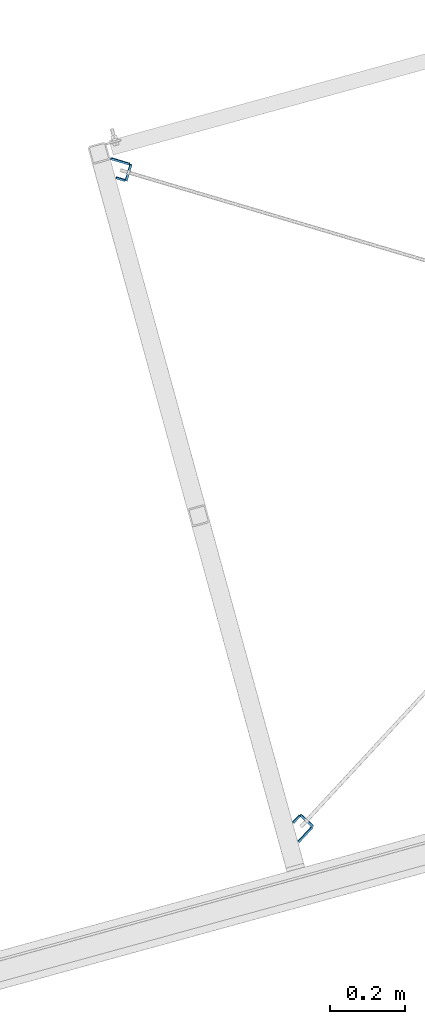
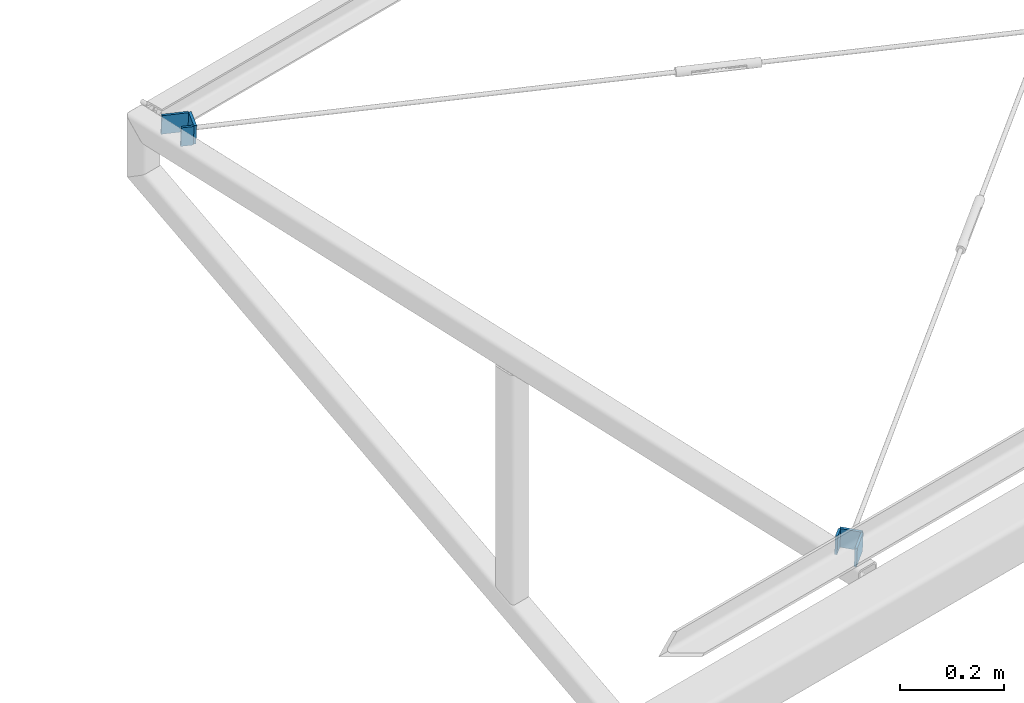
# One storey, part 32 of 169: 6 plates, 6 elements without a shape of their own.
"""IFC2X3 building model written with IfcOpenShell, lengths in millimetres."""

from ifc_helpers import new_model, si_unit, frame, origin_with_axes, place, context, subcontext, project, spatial, polyline, outline, extrude, material, type_object, element, aggregate, save


model = new_model("IFC2X3")

# Units and contexts
model_context = context("Model", 3, precision=1e-05, world=origin_with_axes())
body_context = subcontext(model_context, "Body", "Model", "MODEL_VIEW")
ifc_project = project(units=[si_unit("LENGTHUNIT", "METRE", prefix="MILLI"), si_unit("AREAUNIT", "SQUARE_METRE"), si_unit("VOLUMEUNIT", "CUBIC_METRE"), si_unit("MASSUNIT", "GRAM", prefix="KILO"), si_unit("TIMEUNIT", "SECOND"), si_unit("PLANEANGLEUNIT", "RADIAN"), si_unit("SOLIDANGLEUNIT", "STERADIAN"), si_unit("THERMODYNAMICTEMPERATUREUNIT", "DEGREE_CELSIUS"), si_unit("LUMINOUSINTENSITYUNIT", "LUMEN")], contexts=[model_context])

# Site, building, storey
site_placement = place(None, origin_with_axes())
site = spatial("IfcSite", under=ifc_project, at=site_placement, Name="Undefined", CompositionType="ELEMENT")
building_placement = place(site_placement, origin_with_axes())
building = spatial("IfcBuilding", under=site, at=building_placement, Name="Undefined", CompositionType="ELEMENT")
storey_placement = place(building_placement, origin_with_axes())
storey = spatial("IfcBuildingStorey", under=building, at=storey_placement, Name="Undefined", CompositionType="ELEMENT", Elevation=0.0)

# Assembly, plate
assembly_1_placement = place(storey_placement, origin_with_axes())
assembly_1 = element("IfcElementAssembly", 1, at=assembly_1_placement, inside=storey, Name="Steel Assembly", AssemblyPlace="NOTDEFINED", PredefinedType="RIGID_FRAME")
ifc_material = material(Name="STEEL/S355")
plate_type_1 = type_object("IfcPlateType", Name="BL5*25", PredefinedType="NOTDEFINED")
plate_1_placement = place(assembly_1_placement, frame((-14722.5219530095, 17587.1768872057, 13885.0119218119), z_axis=(-0.734243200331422, 0.677561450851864, 0.0423957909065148), x_axis=(0.678757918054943, 0.733886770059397, 0.0264177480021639)))
plate_1 = element("IfcPlate", 2, at=plate_1_placement, type_object=plate_type_1, material=ifc_material, Name="BLACHA", ObjectType="BL5*25", context=body_context, shape_type="SweptSolid", body=[
    extrude(outline(polyline([(0.0, 0.0), (25.0006980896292, 2.36468622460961e-11), (24.9998359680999, 44.9999427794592), (-0.00129327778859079, 44.9997367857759), (0.0, 0.0)])), frame((6.80888809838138e-19, -2.87858853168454e-21, -2.49999999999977), z_axis=(0.0, 0.0, 1.0), x_axis=(1.0, 0.0, 0.0)), (0.0, 0.0, 1.0), 5.0),
])
aggregate(assembly_1, [plate_1])

assembly_2_placement = place(storey_placement, origin_with_axes())
assembly_2 = element("IfcElementAssembly", 3, at=assembly_2_placement, inside=storey, Name="Steel Assembly", AssemblyPlace="NOTDEFINED", PredefinedType="RIGID_FRAME")
plate_2_placement = place(assembly_2_placement, frame((-15193.8699370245, 19302.2512780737, 13973.9455133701), z_axis=(0.284847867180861, 0.957634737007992, 0.0423957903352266), x_axis=(0.958481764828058, -0.28393280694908, -0.0263603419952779)))
plate_2 = element("IfcPlate", 4, at=plate_2_placement, type_object=plate_type_1, material=ifc_material, Name="BLACHA", ObjectType="BL5*25", context=body_context, shape_type="SweptSolid", body=[
    extrude(outline(polyline([(0.0, 0.0), (25.0006980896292, 2.36468622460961e-11), (24.9998359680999, 44.9999427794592), (-0.00129327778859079, 44.9997367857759), (0.0, 0.0)])), frame((6.80888809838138e-19, -2.87858853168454e-21, -2.49999999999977), z_axis=(0.0, 0.0, 1.0), x_axis=(1.0, 0.0, 0.0)), (0.0, 0.0, 1.0), 5.0),
])
aggregate(assembly_2, [plate_2])

assembly_3_placement = place(storey_placement, origin_with_axes())
assembly_3 = element("IfcElementAssembly", 5, at=assembly_3_placement, inside=storey, Name="Steel Assembly", AssemblyPlace="NOTDEFINED", PredefinedType="RIGID_FRAME")
plate_type_2 = type_object("IfcPlateType", Name="BL5*45", PredefinedType="NOTDEFINED")
plate_3_placement = place(assembly_3_placement, frame((-14708.4948397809, 17536.1360296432, 13882.3659798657), z_axis=(-0.734194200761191, 0.677614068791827, 0.0424034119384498), x_axis=(0.678810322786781, 0.733839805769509, 0.0263758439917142)))
plate_3 = element("IfcPlate", 6, at=plate_3_placement, type_object=plate_type_2, material=ifc_material, Name="BLACHA", ObjectType="BL5*45", context=body_context, shape_type="SweptSolid", body=[
    extrude(outline(polyline([(0.0, 0.0), (53.0017089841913, -1.23691279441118e-10), (53.002162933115, 44.9994583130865), (-2.59688854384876e-05, 44.9999580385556), (0.0, 0.0)])), frame((6.80888809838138e-19, -2.87858853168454e-21, -2.49999999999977), z_axis=(0.0, 0.0, 1.0), x_axis=(1.0, 0.0, 0.0)), (0.0, 0.0, 1.0), 5.0),
])
aggregate(assembly_3, [plate_3])

assembly_4_placement = place(storey_placement, origin_with_axes())
assembly_4 = element("IfcElementAssembly", 7, at=assembly_4_placement, inside=storey, Name="Steel Assembly", AssemblyPlace="NOTDEFINED", PredefinedType="RIGID_FRAME")
plate_4_placement = place(assembly_4_placement, frame((-15207.8975325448, 19353.2919274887, 13976.5929132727), z_axis=(0.284778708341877, 0.957655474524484, 0.0423919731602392), x_axis=(0.958501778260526, -0.283861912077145, -0.0263961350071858)))
plate_4 = element("IfcPlate", 8, at=plate_4_placement, type_object=plate_type_2, material=ifc_material, Name="BLACHA", ObjectType="BL5*45", context=body_context, shape_type="SweptSolid", body=[
    extrude(outline(polyline([(0.0, 0.0), (53.0017089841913, -1.23691279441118e-10), (53.002162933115, 44.9994583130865), (-2.59688854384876e-05, 44.9999580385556), (0.0, 0.0)])), frame((6.80888809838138e-19, -2.87858853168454e-21, -2.49999999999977), z_axis=(0.0, 0.0, 1.0), x_axis=(1.0, 0.0, 0.0)), (0.0, 0.0, 1.0), 5.0),
])
aggregate(assembly_4, [plate_4])

assembly_5_placement = place(storey_placement, origin_with_axes())
assembly_5 = element("IfcElementAssembly", 9, at=assembly_5_placement, inside=storey, Name="Steel Assembly", AssemblyPlace="NOTDEFINED", PredefinedType="RIGID_FRAME")
plate_type_3 = type_object("IfcPlateType", Name="BL6*45", PredefinedType="NOTDEFINED")
plate_5_placement = place(assembly_5_placement, frame((-14703.5158858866, 17607.7258890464, 13885.7515583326), z_axis=(0.678881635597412, 0.733773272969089, 0.0263914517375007), x_axis=(0.734128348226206, -0.677684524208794, -0.0424176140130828)))
plate_5 = element("IfcPlate", 10, at=plate_5_placement, type_object=plate_type_3, material=ifc_material, Name="BLACHA", ObjectType="BL6*45", context=body_context, shape_type="SweptSolid", body=[
    extrude(outline(polyline([(0.0, 0.0), (45.0028114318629, -1.09139364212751e-11), (45.0035934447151, 44.9994316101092), (0.000796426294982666, 44.9999427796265), (0.0, 0.0)])), frame((4.06575814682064e-20, 9.09383216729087e-13, -3.0), z_axis=(0.0, 0.0, 1.0), x_axis=(1.0, 0.0, 0.0)), (0.0, 0.0, 1.0), 6.0),
])
aggregate(assembly_5, [plate_5])

assembly_6_placement = place(storey_placement, origin_with_axes())
assembly_6 = element("IfcElementAssembly", 11, at=assembly_6_placement, inside=storey, Name="Steel Assembly", AssemblyPlace="NOTDEFINED", PredefinedType="RIGID_FRAME")
plate_6_placement = place(assembly_6_placement, frame((-15167.031634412, 19294.3014489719, 13973.2073694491), z_axis=(-0.958529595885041, 0.283770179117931, 0.0263723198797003), x_axis=(0.284685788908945, 0.957683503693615, 0.0423828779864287)))
plate_6 = element("IfcPlate", 12, at=plate_6_placement, type_object=plate_type_3, material=ifc_material, Name="BLACHA", ObjectType="BL6*45", context=body_context, shape_type="SweptSolid", body=[
    extrude(outline(polyline([(0.0, 0.0), (45.0028114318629, -1.09139364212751e-11), (45.0035934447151, 44.9994316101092), (0.000796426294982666, 44.9999427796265), (0.0, 0.0)])), frame((4.06575814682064e-20, 9.09383216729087e-13, -3.0), z_axis=(0.0, 0.0, 1.0), x_axis=(1.0, 0.0, 0.0)), (0.0, 0.0, 1.0), 6.0),
])
aggregate(assembly_6, [plate_6])

save(model, "model.ifc")
